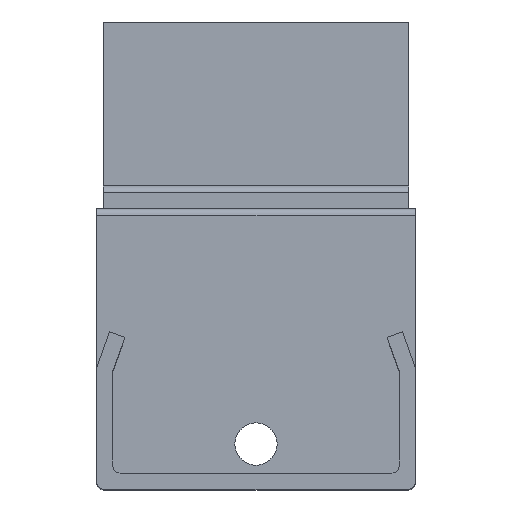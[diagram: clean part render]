
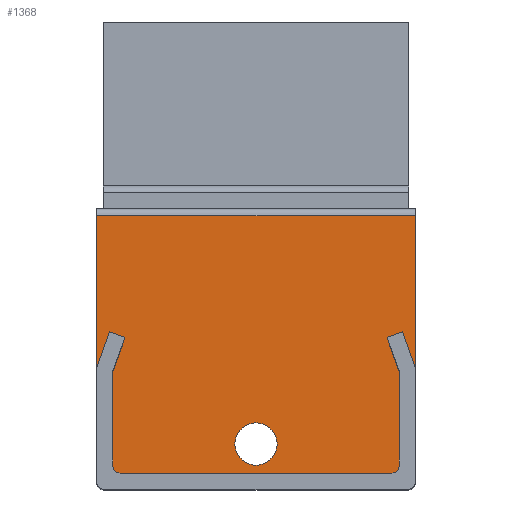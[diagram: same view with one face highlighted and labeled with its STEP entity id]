
A CAD part, top view. The second image highlights one B-rep face of the part: STEP entity #1368.
In plain terms, the highlighted planar face has unit normal (0, 0, 1).
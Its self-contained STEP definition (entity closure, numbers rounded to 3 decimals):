
#27 = DIRECTION ( 'NONE',  ( 0.338, -0.941, 0. ) ) ;
#37 = DIRECTION ( 'NONE',  ( -1., 0., 0. ) ) ;
#60 = VERTEX_POINT ( 'NONE', #1444 ) ;
#61 = CARTESIAN_POINT ( 'NONE',  ( 20.25, 14.7, 0. ) ) ;
#63 = CARTESIAN_POINT ( 'NONE',  ( -20.721, 20.2, 0. ) ) ;
#69 = EDGE_CURVE ( 'NONE', #1559, #1091, #756, .T. ) ;
#95 = CARTESIAN_POINT ( 'NONE',  ( -20.721, 20.2, 0. ) ) ;
#100 = AXIS2_PLACEMENT_3D ( 'NONE', #834, #321, #716 ) ;
#106 = ORIENTED_EDGE ( 'NONE', *, *, #1095, .T. ) ;
#115 = VERTEX_POINT ( 'NONE', #820 ) ;
#130 = CARTESIAN_POINT ( 'NONE',  ( 20.25, 1.2, 0. ) ) ;
#159 = ORIENTED_EDGE ( 'NONE', *, *, #1435, .T. ) ;
#166 = VECTOR ( 'NONE', #1168, 1000. ) ;
#167 = ORIENTED_EDGE ( 'NONE', *, *, #1611, .F. ) ;
#170 = PLANE ( 'NONE',  #100 ) ;
#172 = LINE ( 'NONE', #871, #1603 ) ;
#183 = VECTOR ( 'NONE', #349, 1000. ) ;
#193 = DIRECTION ( 'NONE',  ( -1., 0., 0. ) ) ;
#201 = ORIENTED_EDGE ( 'NONE', *, *, #692, .T. ) ;
#202 = CARTESIAN_POINT ( 'NONE',  ( -20.25, 14.7, 0. ) ) ;
#213 = VERTEX_POINT ( 'NONE', #627 ) ;
#214 = ORIENTED_EDGE ( 'NONE', *, *, #328, .T. ) ;
#234 = ORIENTED_EDGE ( 'NONE', *, *, #309, .T. ) ;
#247 = CARTESIAN_POINT ( 'NONE',  ( 19.25, 0.2, 0. ) ) ;
#281 = CIRCLE ( 'NONE', #910, 1. ) ;
#288 = ORIENTED_EDGE ( 'NONE', *, *, #1379, .T. ) ;
#297 = CARTESIAN_POINT ( 'NONE',  ( 22.55, 36.7, 0. ) ) ;
#309 = EDGE_CURVE ( 'NONE', #918, #1559, #1450, .T. ) ;
#311 = CARTESIAN_POINT ( 'NONE',  ( -20.25, 1.2, 0. ) ) ;
#321 = DIRECTION ( 'NONE',  ( 0., 0., -1. ) ) ;
#328 = EDGE_CURVE ( 'NONE', #666, #1773, #1305, .T. ) ;
#338 = CARTESIAN_POINT ( 'NONE',  ( 20.721, 20.2, 0. ) ) ;
#349 = DIRECTION ( 'NONE',  ( 1., 0., 0. ) ) ;
#350 = EDGE_CURVE ( 'NONE', #918, #1369, #1314, .T. ) ;
#352 = DIRECTION ( 'NONE',  ( 0.941, 0.338, 0. ) ) ;
#368 = VECTOR ( 'NONE', #819, 1000. ) ;
#391 = LINE ( 'NONE', #398, #644 ) ;
#398 = CARTESIAN_POINT ( 'NONE',  ( 22.55, 34.4, 0. ) ) ;
#403 = VERTEX_POINT ( 'NONE', #338 ) ;
#415 = EDGE_LOOP ( 'NONE', ( #167, #1152, #234, #530, #811, #288, #201, #1223, #159, #788, #838, #214, #106, #1720 ) ) ;
#466 = DIRECTION ( 'NONE',  ( 0., 0., -1. ) ) ;
#490 = ORIENTED_EDGE ( 'NONE', *, *, #855, .T. ) ;
#514 = AXIS2_PLACEMENT_3D ( 'NONE', #680, #1495, #823 ) ;
#530 = ORIENTED_EDGE ( 'NONE', *, *, #69, .T. ) ;
#590 = CARTESIAN_POINT ( 'NONE',  ( -18.556, 19.423, 0. ) ) ;
#608 = EDGE_CURVE ( 'NONE', #1466, #720, #1721, .T. ) ;
#627 = CARTESIAN_POINT ( 'NONE',  ( 0., 7.4, 0. ) ) ;
#644 = VECTOR ( 'NONE', #1363, 1000. ) ;
#666 = VERTEX_POINT ( 'NONE', #61 ) ;
#680 = CARTESIAN_POINT ( 'NONE',  ( 0., 4.4, 0. ) ) ;
#684 = CARTESIAN_POINT ( 'NONE',  ( -20.25, 14.7, 0. ) ) ;
#685 = VECTOR ( 'NONE', #1303, 1000. ) ;
#692 = EDGE_CURVE ( 'NONE', #1666, #720, #1439, .T. ) ;
#714 = EDGE_CURVE ( 'NONE', #115, #1135, #281, .T. ) ;
#716 = DIRECTION ( 'NONE',  ( -1., 0., 0. ) ) ;
#720 = VERTEX_POINT ( 'NONE', #311 ) ;
#725 = VECTOR ( 'NONE', #869, 1000. ) ;
#756 = LINE ( 'NONE', #1307, #1756 ) ;
#765 = CARTESIAN_POINT ( 'NONE',  ( -19.25, 0.2, 0. ) ) ;
#788 = ORIENTED_EDGE ( 'NONE', *, *, #714, .F. ) ;
#811 = ORIENTED_EDGE ( 'NONE', *, *, #1558, .T. ) ;
#819 = DIRECTION ( 'NONE',  ( 0., 1., 0. ) ) ;
#820 = CARTESIAN_POINT ( 'NONE',  ( 20.25, 1.2, 0. ) ) ;
#823 = DIRECTION ( 'NONE',  ( 0., 1., 0. ) ) ;
#834 = CARTESIAN_POINT ( 'NONE',  ( 21.6, 36.7, 0. ) ) ;
#838 = ORIENTED_EDGE ( 'NONE', *, *, #1645, .T. ) ;
#851 = FACE_BOUND ( 'NONE', #983, .T. ) ;
#855 = EDGE_CURVE ( 'NONE', #213, #213, #994, .T. ) ;
#857 = CARTESIAN_POINT ( 'NONE',  ( 19.25, 1.2, 0. ) ) ;
#869 = DIRECTION ( 'NONE',  ( -0.338, -0.941, 0. ) ) ;
#871 = CARTESIAN_POINT ( 'NONE',  ( 22.55, 15.1, 0. ) ) ;
#910 = AXIS2_PLACEMENT_3D ( 'NONE', #857, #1417, #37 ) ;
#915 = VECTOR ( 'NONE', #1042, 1000. ) ;
#918 = VERTEX_POINT ( 'NONE', #1293 ) ;
#982 = VECTOR ( 'NONE', #352, 1000. ) ;
#983 = EDGE_LOOP ( 'NONE', ( #490 ) ) ;
#989 = FACE_OUTER_BOUND ( 'NONE', #415, .T. ) ;
#994 = CIRCLE ( 'NONE', #514, 3. ) ;
#1011 = EDGE_CURVE ( 'NONE', #403, #1599, #172, .T. ) ;
#1042 = DIRECTION ( 'NONE',  ( -0.338, 0.941, 0. ) ) ;
#1052 = CARTESIAN_POINT ( 'NONE',  ( 18.556, 19.423, 0. ) ) ;
#1091 = VERTEX_POINT ( 'NONE', #95 ) ;
#1095 = EDGE_CURVE ( 'NONE', #1773, #403, #1308, .T. ) ;
#1134 = LINE ( 'NONE', #590, #725 ) ;
#1135 = VERTEX_POINT ( 'NONE', #247 ) ;
#1152 = ORIENTED_EDGE ( 'NONE', *, *, #350, .F. ) ;
#1156 = CARTESIAN_POINT ( 'NONE',  ( -19.25, 1.2, 0. ) ) ;
#1168 = DIRECTION ( 'NONE',  ( 0., -1., 0. ) ) ;
#1169 = LINE ( 'NONE', #765, #183 ) ;
#1188 = CARTESIAN_POINT ( 'NONE',  ( 21.6, 36.7, 0. ) ) ;
#1223 = ORIENTED_EDGE ( 'NONE', *, *, #608, .F. ) ;
#1293 = CARTESIAN_POINT ( 'NONE',  ( -22.55, 36.7, 0. ) ) ;
#1303 = DIRECTION ( 'NONE',  ( 0., -1., 0. ) ) ;
#1305 = LINE ( 'NONE', #1052, #915 ) ;
#1307 = CARTESIAN_POINT ( 'NONE',  ( -22.55, 15.1, 0. ) ) ;
#1308 = LINE ( 'NONE', #1464, #982 ) ;
#1314 = LINE ( 'NONE', #1188, #1606 ) ;
#1315 = LINE ( 'NONE', #63, #1513 ) ;
#1335 = CARTESIAN_POINT ( 'NONE',  ( -19.25, 0.2, 0. ) ) ;
#1342 = CARTESIAN_POINT ( 'NONE',  ( 18.556, 19.423, 0. ) ) ;
#1363 = DIRECTION ( 'NONE',  ( 0., -1., 0. ) ) ;
#1368 = ADVANCED_FACE ( 'NONE', ( #989, #851 ), #170, .F. ) ;
#1369 = VERTEX_POINT ( 'NONE', #297 ) ;
#1379 = EDGE_CURVE ( 'NONE', #60, #1666, #1134, .T. ) ;
#1417 = DIRECTION ( 'NONE',  ( 0., 0., -1. ) ) ;
#1435 = EDGE_CURVE ( 'NONE', #1466, #1135, #1169, .T. ) ;
#1439 = LINE ( 'NONE', #202, #685 ) ;
#1442 = DIRECTION ( 'NONE',  ( 0.941, -0.338, 0. ) ) ;
#1444 = CARTESIAN_POINT ( 'NONE',  ( -18.556, 19.423, 0. ) ) ;
#1450 = LINE ( 'NONE', #1594, #166 ) ;
#1462 = AXIS2_PLACEMENT_3D ( 'NONE', #1156, #466, #193 ) ;
#1464 = CARTESIAN_POINT ( 'NONE',  ( 20.721, 20.2, 0. ) ) ;
#1466 = VERTEX_POINT ( 'NONE', #1335 ) ;
#1495 = DIRECTION ( 'NONE',  ( 0., 0., -1. ) ) ;
#1509 = CARTESIAN_POINT ( 'NONE',  ( 22.55, 15.1, 0. ) ) ;
#1513 = VECTOR ( 'NONE', #1442, 1000. ) ;
#1558 = EDGE_CURVE ( 'NONE', #1091, #60, #1315, .T. ) ;
#1559 = VERTEX_POINT ( 'NONE', #1586 ) ;
#1586 = CARTESIAN_POINT ( 'NONE',  ( -22.55, 15.1, 0. ) ) ;
#1594 = CARTESIAN_POINT ( 'NONE',  ( -22.55, 34.4, 0. ) ) ;
#1599 = VERTEX_POINT ( 'NONE', #1509 ) ;
#1603 = VECTOR ( 'NONE', #27, 1000. ) ;
#1606 = VECTOR ( 'NONE', #1730, 1000. ) ;
#1611 = EDGE_CURVE ( 'NONE', #1369, #1599, #391, .T. ) ;
#1645 = EDGE_CURVE ( 'NONE', #115, #666, #1768, .T. ) ;
#1655 = DIRECTION ( 'NONE',  ( 0.338, 0.941, 0. ) ) ;
#1666 = VERTEX_POINT ( 'NONE', #684 ) ;
#1720 = ORIENTED_EDGE ( 'NONE', *, *, #1011, .T. ) ;
#1721 = CIRCLE ( 'NONE', #1462, 1. ) ;
#1730 = DIRECTION ( 'NONE',  ( 1., 0., 0. ) ) ;
#1756 = VECTOR ( 'NONE', #1655, 1000. ) ;
#1768 = LINE ( 'NONE', #130, #368 ) ;
#1773 = VERTEX_POINT ( 'NONE', #1342 ) ;
